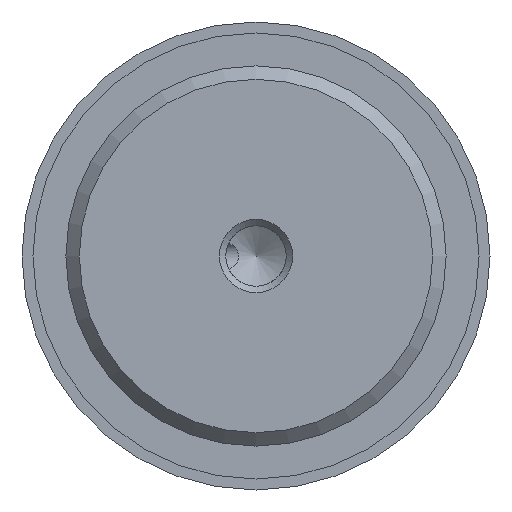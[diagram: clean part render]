
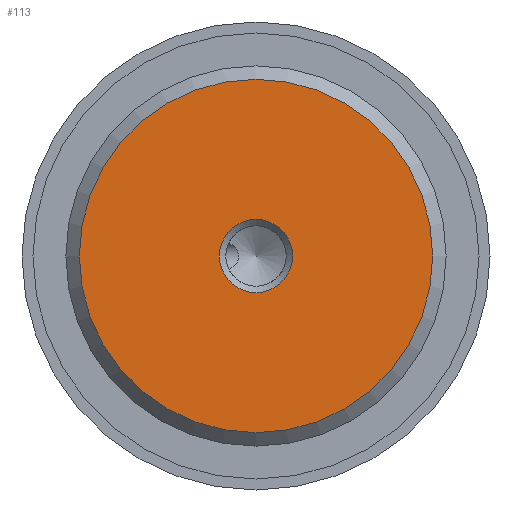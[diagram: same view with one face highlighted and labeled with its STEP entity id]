
A CAD part, front view. The second image highlights one B-rep face of the part: STEP entity #113.
In plain terms, the highlighted planar face has unit normal (0, -1, 0).
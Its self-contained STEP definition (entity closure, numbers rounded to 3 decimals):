
#113 = ADVANCED_FACE( '', ( #220, #221 ), #222, .F. );
#220 = FACE_BOUND( '', #363, .T. );
#221 = FACE_OUTER_BOUND( '', #364, .T. );
#222 = PLANE( '', #365 );
#363 = EDGE_LOOP( '', ( #727 ) );
#364 = EDGE_LOOP( '', ( #728 ) );
#365 = AXIS2_PLACEMENT_3D( '', #729, #730, #731 );
#727 = ORIENTED_EDGE( '', *, *, #1027, .F. );
#728 = ORIENTED_EDGE( '', *, *, #1029, .T. );
#729 = CARTESIAN_POINT( '', ( 12.08, 0., 0. ) );
#730 = DIRECTION( '', ( 0., 1., 0. ) );
#731 = DIRECTION( '', ( 0., 0., 1. ) );
#1027 = EDGE_CURVE( '', #1253, #1253, #1254, .T. );
#1029 = EDGE_CURVE( '', #1257, #1257, #1258, .T. );
#1253 = VERTEX_POINT( '', #1698 );
#1254 = CIRCLE( '', #1699, 2.5 );
#1257 = VERTEX_POINT( '', #1702 );
#1258 = CIRCLE( '', #1703, 12.08 );
#1698 = CARTESIAN_POINT( '', ( 2.5, 0., 0. ) );
#1699 = AXIS2_PLACEMENT_3D( '', #1881, #1882, #1883 );
#1702 = CARTESIAN_POINT( '', ( 0., 0., -12.08 ) );
#1703 = AXIS2_PLACEMENT_3D( '', #1887, #1888, #1889 );
#1881 = CARTESIAN_POINT( '', ( 0., 0., 0. ) );
#1882 = DIRECTION( '', ( 0., -1., 0. ) );
#1883 = DIRECTION( '', ( 1., 0., 0. ) );
#1887 = CARTESIAN_POINT( '', ( 0., 0., 0. ) );
#1888 = DIRECTION( '', ( 0., -1., 0. ) );
#1889 = DIRECTION( '', ( 0., 0., -1. ) );
